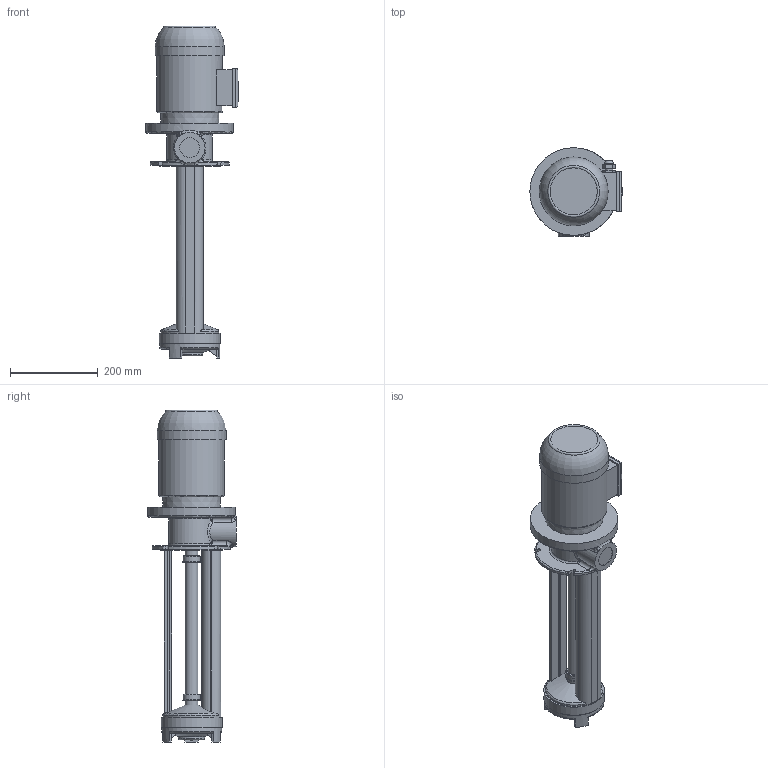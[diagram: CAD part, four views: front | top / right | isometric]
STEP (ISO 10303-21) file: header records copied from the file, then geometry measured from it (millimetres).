
FILE_DESCRIPTION(/* description */ ('Unknown'),/* implementation_level */ '2;1');
FILE_NAME(/* name */ 'gp440',/* time_stamp */ '2025-06-04T09:11:09+03:00',/* author */ ('Unknown'),/* organization */ ('Unknown'),/* preprocessor_version */ 'ST-DEVELOPER v16.7',/* originating_system */ 'DEX',/* authorisation */ $);
FILE_SCHEMA (('AUTOMOTIVE_DESIGN {1 0 10303 214 3 1 1}'));
Length unit declared in the file: millimetre
Products named in the file (1): gp440
Bounding box: 210.5 x 202 x 757.58 mm (x, y, z)
Volume: 7840727.9 mm3; surface area: 467055.6 mm2
Topology: 1 solids, 1 shells, 296 faces, 730 edges, 467 vertices
Faces by surface type: plane 112, bspline 86, cylinder 64, torus 18, cone 16
Full cylindrical faces by diameter (mm): 17 x1, 21.5 x1, 29 x3, 33 x2, 35 x2, 39 x2, 40.5 x2, 45 x1, 47 x1, 60 x1, 137 x1, 139 x1, 140 x1, 149.426 x1, 200 x1
Entity records: 11370 total; most frequent: CARTESIAN_POINT 5073, ORIENTED_EDGE 1360, DIRECTION 1075, EDGE_CURVE 680, VERTEX_POINT 462, AXIS2_PLACEMENT_3D 393, EDGE_LOOP 376, FACE_BOUND 376
